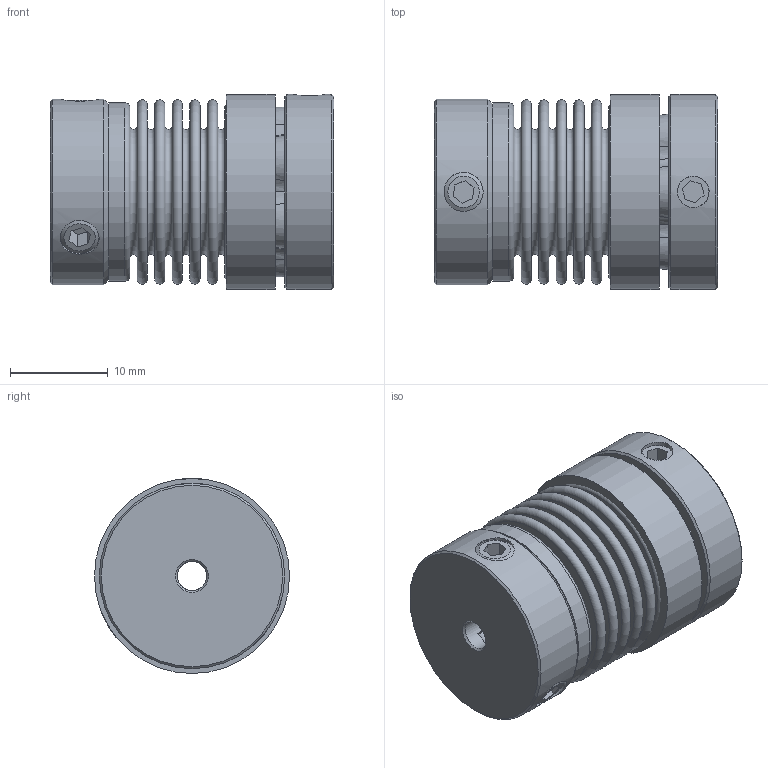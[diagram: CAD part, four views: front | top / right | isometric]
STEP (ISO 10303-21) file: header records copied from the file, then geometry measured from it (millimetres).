
FILE_DESCRIPTION( ( 'KBE1/14 - N7H8 - N14H7 - 98 Sh' ), '1' );
FILE_NAME( 'K:/Konstruktion/Fertigungszeichnungen/Metallbalgkupplung/KB1P/15/KB1P-15-28.stp', '14.12.2015', ( 'KBK-Antriebstechnik' ), ( 'KBK-Antriebstechnik' ), 'PSStep 16.0.42', 'Solid Edge St6', ' ' );
FILE_SCHEMA( ( 'AUTOMOTIVE_DESIGN { 1 0 10303 214 1 1 1 1 }' ) );
Length unit declared in the file: millimetre
Products named in the file (6): Assem1; Stecknabe KB1P-15; Balgaufnahme KB2P-15 für Step; MN15_Standard_1; BK15_Standard_0; Socket Set Screw Cup Point_DIN_DIN 916 - M4 x 6-N_3
Assembly tree (8 placements, depth 2):
  Assem1
    Stecknabe KB1P-15
    Balgaufnahme KB2P-15 für Step
    MN15_Standard_1
    BK15_Standard_0
    Socket Set Screw Cup Point_DIN_DIN 916 - M4 x 6-N_3  x4
Bounding box: 29.05 x 20 x 20 mm (x, y, z)
Volume: 5623.8 mm3; surface area: 8484.9 mm2
Topology: 8 solids, 8 shells, 169 faces, 381 edges, 248 vertices
Faces by surface type: plane 69, cone 56, torus 26, cylinder 18
Full cylindrical faces by diameter (mm): 3 x2, 3.242 x2, 4 x6, 18 x3, 18.3 x2, 19 x1, 20 x2
Entity records: 5005 total; most frequent: CARTESIAN_POINT 1004, DIRECTION 644, ORIENTED_EDGE 454, AXIS2_PLACEMENT_3D 299, EDGE_CURVE 227, EDGE_LOOP 224, VERTEX_POINT 190, FACE_OUTER_BOUND 174
